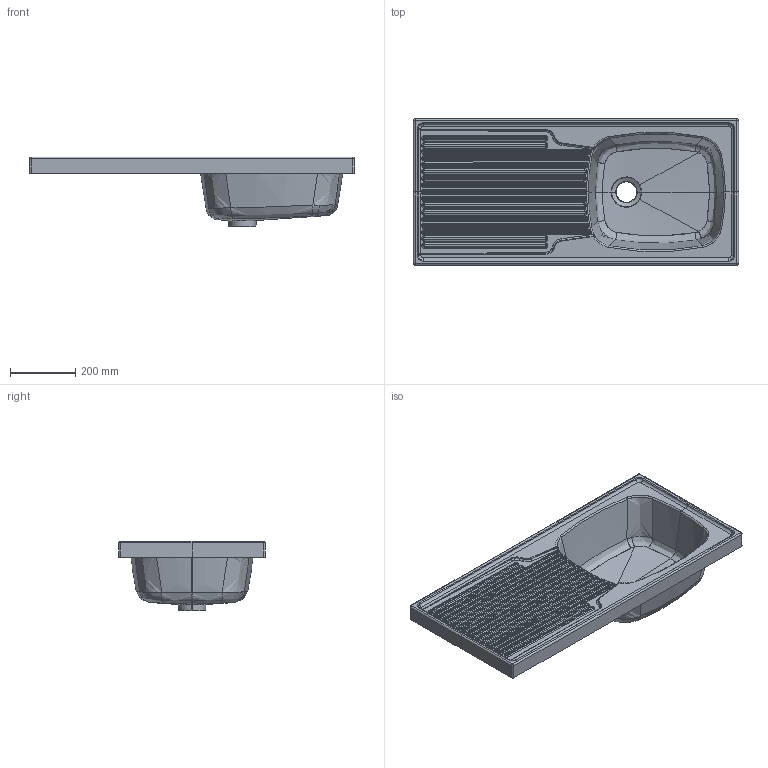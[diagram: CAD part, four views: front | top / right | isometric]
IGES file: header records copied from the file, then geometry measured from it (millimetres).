
Start section: START RECORD GO HERE.
Global section: file name: 5002_3D.igs; native system: DASSAULT SYSTEMES CATIA V5 R19 - www.3ds.com; preprocessor: CATIA Version 5 Release 19 SP 5 ; author: gioge; organization: LAPTOP-G94B6G74; date: 20201024.093556; units: millimetre
Bounding box: 1000 x 450 x 215 mm (x, y, z)
Surface area: 1406428.1 mm2 (no closed solid volume)
Topology: 0 solids, 0 shells, 482 faces, 2246 edges, 2240 vertices
Faces by surface type: revolution 344, bspline 92, plane 46
